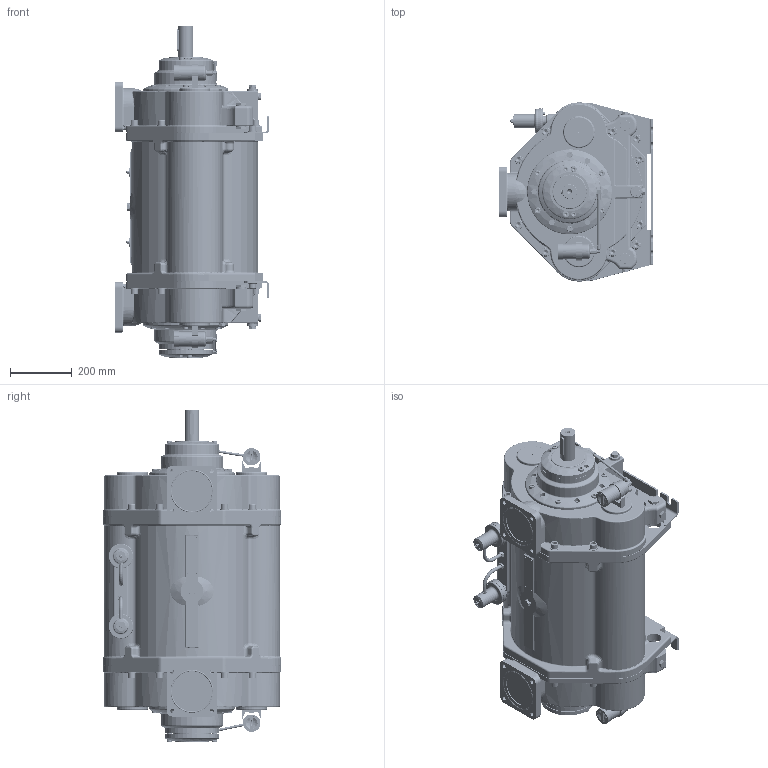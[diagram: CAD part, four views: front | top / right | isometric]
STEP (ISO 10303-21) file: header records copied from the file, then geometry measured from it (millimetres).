
FILE_DESCRIPTION(/* description */ (''),/* implementation_level */ '2;1');
FILE_NAME(/* name */ '1700032C.stp',/* time_stamp */ '2025-09-23T12:59:51+02:00',/* author */ ('JJ'),/* organization */ (''),/* preprocessor_version */ 'ST-DEVELOPER v20',/* originating_system */ 'Autodesk Inventor 2025',/* authorisation */ '');
FILE_SCHEMA (('AUTOMOTIVE_DESIGN { 1 0 10303 214 3 1 1 }'));
Length unit declared in the file: millimetre
Products named in the file (1): 1700032
Bounding box: 499.1 x 579 x 1074 mm (x, y, z)
Volume: 132213947.7 mm3; surface area: 3454249.8 mm2
Topology: 7 solids, 7 shells, 5139 faces, 12756 edges, 7873 vertices
Faces by surface type: plane 1968, cylinder 1277, bspline 824, torus 559, cone 475, sphere 36
Full cylindrical faces by diameter (mm): 1.5 x16, 3.2 x4, 3.3 x4, 3.5 x2, 4 x2, 4.134 x4, 4.92 x8, 5 x2, 5.3 x2, 6 x10, 6.1 x2, 6.4 x2, 8 x10, 8.5 x2, 8.57 x2, 9.2 x2, 9.7 x2, 9.8 x4, 10 x14, 10.106 x12, 10.11 x1, 12 x18, 13 x6, 13.5 x4, 13.835 x8, 14.95 x2, 15 x4, 16 x16, 16.662 x2, 17.5 x12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
Entity records: 169554 total; most frequent: CARTESIAN_POINT 47793, ORIENTED_EDGE 25310, DIRECTION 23000, EDGE_CURVE 12655, AXIS2_PLACEMENT_3D 8643, VERTEX_POINT 7873, EDGE_LOOP 5736, LINE 5714
